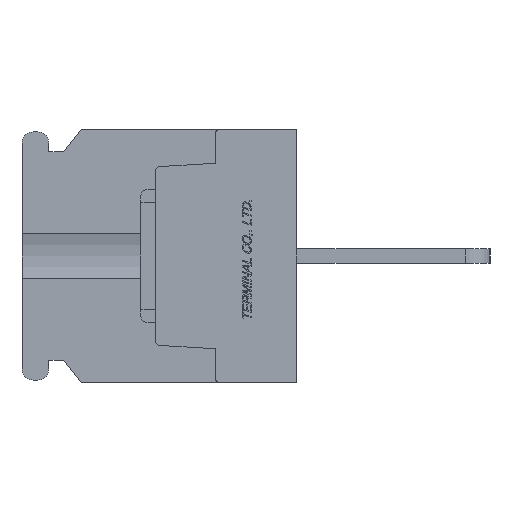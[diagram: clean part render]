
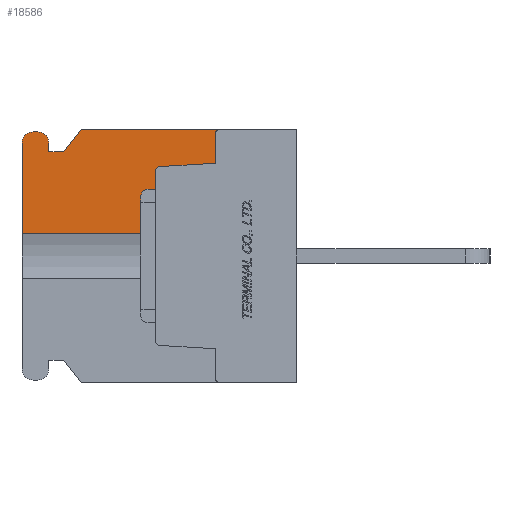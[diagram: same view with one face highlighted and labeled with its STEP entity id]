
A CAD part, left-side view. The second image highlights one B-rep face of the part: STEP entity #18586.
In plain terms, the highlighted planar face has unit normal (-1, 0, 0).
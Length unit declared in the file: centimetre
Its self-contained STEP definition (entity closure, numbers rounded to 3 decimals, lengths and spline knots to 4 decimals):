
#1532=VECTOR('',#21331,1.);
#1534=VECTOR('',#21334,1.);
#1536=VECTOR('',#21341,1.);
#1537=VECTOR('',#21342,1.);
#1538=VECTOR('',#21343,1.);
#1539=VECTOR('',#21344,1.);
#1540=VECTOR('',#21345,1.);
#1541=VECTOR('',#21348,1.);
#1542=VECTOR('',#21351,1.);
#1543=VECTOR('',#21352,1.);
#3549=LINE('',#27617,#1532);
#3551=LINE('',#27621,#1534);
#3553=LINE('',#27627,#1536);
#3554=LINE('',#27629,#1537);
#3555=LINE('',#27631,#1538);
#3556=LINE('',#27633,#1539);
#3557=LINE('',#27635,#1540);
#3558=LINE('',#27639,#1541);
#3559=LINE('',#27643,#1542);
#3560=LINE('',#27645,#1543);
#5614=VERTEX_POINT('',#27610);
#5615=VERTEX_POINT('',#27612);
#5616=VERTEX_POINT('',#27616);
#5617=VERTEX_POINT('',#27620);
#5618=VERTEX_POINT('',#27624);
#5619=VERTEX_POINT('',#27628);
#5620=VERTEX_POINT('',#27630);
#5621=VERTEX_POINT('',#27632);
#5622=VERTEX_POINT('',#27634);
#5623=VERTEX_POINT('',#27636);
#5624=VERTEX_POINT('',#27638);
#5625=VERTEX_POINT('',#27640);
#5626=VERTEX_POINT('',#27642);
#5627=VERTEX_POINT('',#27644);
#6765=CIRCLE('',#31558,0.03);
#6766=CIRCLE('',#31562,0.03);
#6767=CIRCLE('',#31564,0.075);
#6768=CIRCLE('',#31565,0.075);
#8388=EDGE_CURVE('',#5615,#5614,#6765,.T.);
#8391=EDGE_CURVE('',#5614,#5616,#3549,.T.);
#8393=EDGE_CURVE('',#5616,#5617,#3551,.T.);
#8395=EDGE_CURVE('',#5617,#5618,#6766,.T.);
#8396=EDGE_CURVE('',#5619,#5615,#3553,.T.);
#8397=EDGE_CURVE('',#5620,#5618,#3554,.T.);
#8398=EDGE_CURVE('',#5621,#5620,#3555,.T.);
#8399=EDGE_CURVE('',#5622,#5621,#3556,.T.);
#8400=EDGE_CURVE('',#5623,#5622,#3557,.T.);
#8401=EDGE_CURVE('',#5624,#5623,#6767,.T.);
#8402=EDGE_CURVE('',#5625,#5624,#3558,.T.);
#8403=EDGE_CURVE('',#5626,#5625,#6768,.T.);
#8404=EDGE_CURVE('',#5627,#5626,#3559,.T.);
#8405=EDGE_CURVE('',#5627,#5619,#3560,.T.);
#12391=ORIENTED_EDGE('',*,*,#8396,.T.);
#12392=ORIENTED_EDGE('',*,*,#8388,.T.);
#12393=ORIENTED_EDGE('',*,*,#8391,.T.);
#12394=ORIENTED_EDGE('',*,*,#8393,.T.);
#12395=ORIENTED_EDGE('',*,*,#8395,.T.);
#12396=ORIENTED_EDGE('',*,*,#8397,.F.);
#12397=ORIENTED_EDGE('',*,*,#8398,.F.);
#12398=ORIENTED_EDGE('',*,*,#8399,.F.);
#12399=ORIENTED_EDGE('',*,*,#8400,.F.);
#12400=ORIENTED_EDGE('',*,*,#8401,.F.);
#12401=ORIENTED_EDGE('',*,*,#8402,.F.);
#12402=ORIENTED_EDGE('',*,*,#8403,.F.);
#12403=ORIENTED_EDGE('',*,*,#8404,.F.);
#12404=ORIENTED_EDGE('',*,*,#8405,.T.);
#16240=EDGE_LOOP('',(#12391,#12392,#12393,#12394,#12395,#12396,#12397,#12398,
#12399,#12400,#12401,#12402,#12403,#12404));
#17440=FACE_BOUND('',#16240,.T.);
#18586=ADVANCED_FACE('',(#17440),#19501,.F.);
#19501=PLANE('',#31563);
#21326=DIRECTION('',(1.,0.,0.));
#21327=DIRECTION('',(0.,0.,0.03));
#21331=DIRECTION('',(0.,-0.998,0.061));
#21334=DIRECTION('',(0.,0.,1.));
#21338=DIRECTION('',(1.,0.,0.));
#21339=DIRECTION('',(0.,0.,0.03));
#21340=DIRECTION('',(1.,0.,0.));
#21341=DIRECTION('',(0.,0.,1.));
#21342=DIRECTION('',(0.,-1.,0.));
#21343=DIRECTION('',(0.,-0.625,0.781));
#21344=DIRECTION('',(0.,-1.,0.));
#21345=DIRECTION('',(0.,0.,-1.));
#21346=DIRECTION('',(1.,0.,0.));
#21347=DIRECTION('',(0.,0.,-0.075));
#21348=DIRECTION('',(0.,-1.,0.));
#21349=DIRECTION('',(1.,0.,0.));
#21350=DIRECTION('',(0.,0.,-0.075));
#21351=DIRECTION('',(0.,0.,1.));
#21352=DIRECTION('',(0.,-1.,0.));
#27610=CARTESIAN_POINT('',(-1.1,0.9218,0.6017));
#27611=CARTESIAN_POINT('',(-1.1,0.92,0.5718));
#27612=CARTESIAN_POINT('',(-1.1,0.95,0.5718));
#27616=CARTESIAN_POINT('',(-1.1,0.55,0.6245));
#27617=CARTESIAN_POINT('',(-1.1,0.859,0.6056));
#27620=CARTESIAN_POINT('',(-1.1,0.55,0.82));
#27621=CARTESIAN_POINT('',(-1.1,0.55,0.3611));
#27624=CARTESIAN_POINT('',(-1.1,0.52,0.85));
#27625=CARTESIAN_POINT('',(-1.1,0.52,0.82));
#27626=CARTESIAN_POINT('',(-1.1,0.9454,0.));
#27627=CARTESIAN_POINT('',(-1.1,0.95,0.));
#27628=CARTESIAN_POINT('',(-1.1,0.95,0.1521));
#27629=CARTESIAN_POINT('',(-1.1,1.45,0.85));
#27630=CARTESIAN_POINT('',(-1.1,1.45,0.85));
#27631=CARTESIAN_POINT('',(-1.1,1.57,0.7));
#27632=CARTESIAN_POINT('',(-1.1,1.57,0.7));
#27633=CARTESIAN_POINT('',(-1.1,1.67,0.7));
#27634=CARTESIAN_POINT('',(-1.1,1.67,0.7));
#27635=CARTESIAN_POINT('',(-1.1,1.67,0.76));
#27636=CARTESIAN_POINT('',(-1.1,1.67,0.76));
#27637=CARTESIAN_POINT('',(-1.1,1.745,0.76));
#27638=CARTESIAN_POINT('',(-1.1,1.745,0.835));
#27639=CARTESIAN_POINT('',(-1.1,1.775,0.835));
#27640=CARTESIAN_POINT('',(-1.1,1.775,0.835));
#27641=CARTESIAN_POINT('',(-1.1,1.775,0.76));
#27642=CARTESIAN_POINT('',(-1.1,1.85,0.76));
#27643=CARTESIAN_POINT('',(-1.1,1.85,-0.76));
#27644=CARTESIAN_POINT('',(-1.1,1.85,0.1521));
#27645=CARTESIAN_POINT('',(-1.1,1.4,0.1521));
#31558=AXIS2_PLACEMENT_3D('',#27611,#21326,#21327);
#31562=AXIS2_PLACEMENT_3D('',#27625,#21338,#21339);
#31563=AXIS2_PLACEMENT_3D('',#27626,#21340,$);
#31564=AXIS2_PLACEMENT_3D('',#27637,#21346,#21347);
#31565=AXIS2_PLACEMENT_3D('',#27641,#21349,#21350);
